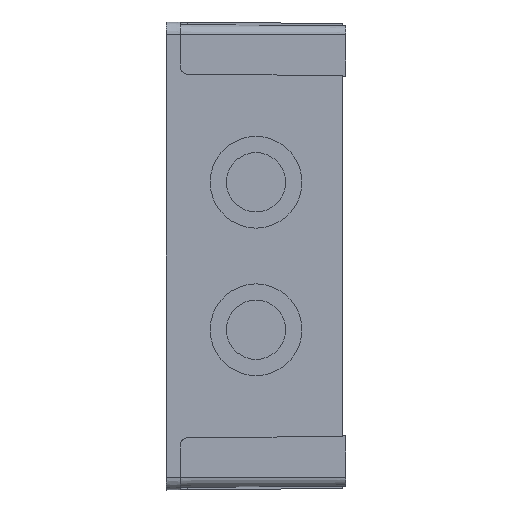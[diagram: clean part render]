
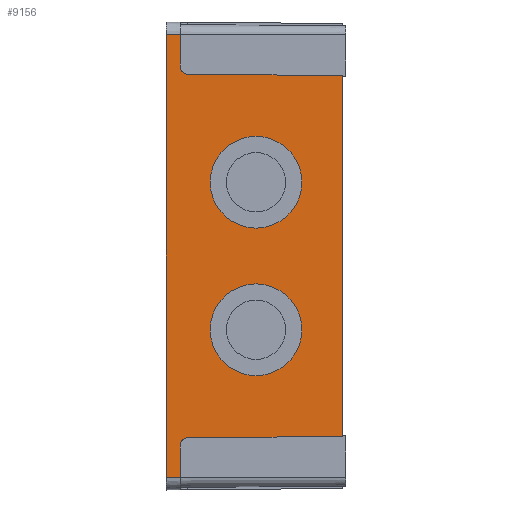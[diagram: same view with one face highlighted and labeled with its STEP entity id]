
A CAD part, left-side view. The second image highlights one B-rep face of the part: STEP entity #9156.
In plain terms, the highlighted planar face has unit normal (-1, -0.009, 0).
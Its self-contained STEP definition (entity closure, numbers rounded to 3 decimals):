
#2607 = VERTEX_POINT ( 'NONE', #6578 ) ;
#2619 = EDGE_CURVE ( 'NONE', #2607, #2620, #6628, .T. ) ;
#2620 = VERTEX_POINT ( 'NONE', #6623 ) ;
#2716 = EDGE_CURVE ( 'NONE', #2728, #2723, #6747, .T. ) ;
#2723 = VERTEX_POINT ( 'NONE', #6795 ) ;
#2728 = VERTEX_POINT ( 'NONE', #6788 ) ;
#6578 = CARTESIAN_POINT ( 'NONE',  ( -64.943, -12.257, 20.5 ) ) ;
#6623 = CARTESIAN_POINT ( 'NONE',  ( -64.721, -37.756, 20.5 ) ) ;
#6624 = DIRECTION ( 'NONE',  ( 0.009, -1., 0. ) ) ;
#6625 = DIRECTION ( 'NONE',  ( -1., -0.009, 0. ) ) ;
#6626 = CARTESIAN_POINT ( 'NONE',  ( -64.832, -25.007, 20.5 ) ) ;
#6627 = AXIS2_PLACEMENT_3D ( 'NONE', #6626, #6625, #6624 ) ;
#6628 = CIRCLE ( 'NONE', #6627, 12.75 ) ;
#6744 = DIRECTION ( 'NONE',  ( 0.009, -1., 0. ) ) ;
#6745 = DIRECTION ( 'NONE',  ( -1., -0.009, 0. ) ) ;
#6746 = AXIS2_PLACEMENT_3D ( 'NONE', #6752, #6745, #6744 ) ;
#6747 = CIRCLE ( 'NONE', #6746, 12.75 ) ;
#6752 = CARTESIAN_POINT ( 'NONE',  ( -64.832, -25.007, -20.5 ) ) ;
#6788 = CARTESIAN_POINT ( 'NONE',  ( -64.943, -12.257, -20.5 ) ) ;
#6795 = CARTESIAN_POINT ( 'NONE',  ( -64.721, -37.756, -20.5 ) ) ;
#7273 = CARTESIAN_POINT ( 'NONE',  ( -64.622, -49., -50.157 ) ) ;
#7274 = DIRECTION ( 'NONE',  ( 0., 0., 1. ) ) ;
#7275 = VECTOR ( 'NONE', #7274, 1000. ) ;
#7276 = CARTESIAN_POINT ( 'NONE',  ( -64.622, -49., -61.55 ) ) ;
#7277 = LINE ( 'NONE', #7276, #7275 ) ;
#7278 = CARTESIAN_POINT ( 'NONE',  ( -64.622, -49., 50.157 ) ) ;
#7301 = CARTESIAN_POINT ( 'NONE',  ( -65.05, 0., 61.55 ) ) ;
#7302 = DIRECTION ( 'NONE',  ( -0.009, 1., 0. ) ) ;
#7303 = VECTOR ( 'NONE', #7302, 1000. ) ;
#7304 = CARTESIAN_POINT ( 'NONE',  ( -65.05, 0., 61.55 ) ) ;
#7305 = LINE ( 'NONE', #7304, #7303 ) ;
#7380 = CARTESIAN_POINT ( 'NONE',  ( -65.015, -4., 61.55 ) ) ;
#7427 = CARTESIAN_POINT ( 'NONE',  ( -65.05, 0., -61.55 ) ) ;
#7428 = DIRECTION ( 'NONE',  ( -0.009, 1., 0. ) ) ;
#7429 = VECTOR ( 'NONE', #7428, 1000. ) ;
#7430 = CARTESIAN_POINT ( 'NONE',  ( -65.05, 0., -61.55 ) ) ;
#7431 = LINE ( 'NONE', #7430, #7429 ) ;
#7432 = CARTESIAN_POINT ( 'NONE',  ( -65.015, -4., -61.55 ) ) ;
#7606 =( BOUNDED_CURVE ( )  B_SPLINE_CURVE ( 3, ( #7660, #7659, #7658, #7657 ),
 .UNSPECIFIED., .F., .T. ) 
 B_SPLINE_CURVE_WITH_KNOTS ( ( 4, 4 ),
 ( 4.721, 6.283 ),
 .UNSPECIFIED. ) 
 CURVE ( )  GEOMETRIC_REPRESENTATION_ITEM ( )  RATIONAL_B_SPLINE_CURVE ( ( 1., 0.807, 0.807, 1. ) ) 
 REPRESENTATION_ITEM ( '' )  );
#7607 = LINE ( 'NONE', #7656, #7655 ) ;
#7608 = CARTESIAN_POINT ( 'NONE',  ( -65.015, -4., 52.533 ) ) ;
#7609 = CARTESIAN_POINT ( 'NONE',  ( -64.998, -5.983, 50.533 ) ) ;
#7633 = DIRECTION ( 'NONE',  ( 0.009, -1., 0. ) ) ;
#7634 = DIRECTION ( 'NONE',  ( -1., -0.009, 0. ) ) ;
#7635 = CARTESIAN_POINT ( 'NONE',  ( -65.05, 0., -61.55 ) ) ;
#7636 = AXIS2_PLACEMENT_3D ( 'NONE', #7635, #7634, #7633 ) ;
#7637 = PLANE ( 'NONE',  #7636 ) ;
#7638 = FACE_OUTER_BOUND ( 'NONE', #9165, .T. ) ;
#7639 = FACE_BOUND ( 'NONE', #9161, .T. ) ;
#7640 = FACE_BOUND ( 'NONE', #9157, .T. ) ;
#7645 = CARTESIAN_POINT ( 'NONE',  ( -65.015, -4., -52.533 ) ) ;
#7646 = DIRECTION ( 'NONE',  ( 0., 0., 1. ) ) ;
#7647 = VECTOR ( 'NONE', #7646, 1000. ) ;
#7648 = CARTESIAN_POINT ( 'NONE',  ( -65.015, -4., -61.55 ) ) ;
#7649 = LINE ( 'NONE', #7648, #7647 ) ;
#7650 = DIRECTION ( 'NONE',  ( 0., 0., 1. ) ) ;
#7651 = VECTOR ( 'NONE', #7650, 1000. ) ;
#7652 = CARTESIAN_POINT ( 'NONE',  ( -65.05, 0., -61.55 ) ) ;
#7653 = LINE ( 'NONE', #7652, #7651 ) ;
#7654 = DIRECTION ( 'NONE',  ( 0., 0., 1. ) ) ;
#7655 = VECTOR ( 'NONE', #7654, 1000. ) ;
#7656 = CARTESIAN_POINT ( 'NONE',  ( -65.015, -4., -61.55 ) ) ;
#7657 = CARTESIAN_POINT ( 'NONE',  ( -65.015, -4., 52.533 ) ) ;
#7658 = CARTESIAN_POINT ( 'NONE',  ( -65.015, -4., 51.369 ) ) ;
#7659 = CARTESIAN_POINT ( 'NONE',  ( -65.008, -4.819, 50.543 ) ) ;
#7660 = CARTESIAN_POINT ( 'NONE',  ( -64.998, -5.983, 50.533 ) ) ;
#7675 = DIRECTION ( 'NONE',  ( 0.009, -1., -0.009 ) ) ;
#7676 = VECTOR ( 'NONE', #7675, 1000. ) ;
#7677 = CARTESIAN_POINT ( 'NONE',  ( -65.041, -0.978, 50.576 ) ) ;
#7678 = LINE ( 'NONE', #7677, #7676 ) ;
#7679 = DIRECTION ( 'NONE',  ( 0.009, -1., 0. ) ) ;
#7680 = DIRECTION ( 'NONE',  ( -1., -0.009, 0. ) ) ;
#7681 = CARTESIAN_POINT ( 'NONE',  ( -64.832, -25.007, -20.5 ) ) ;
#7682 = AXIS2_PLACEMENT_3D ( 'NONE', #7681, #7680, #7679 ) ;
#7683 = CIRCLE ( 'NONE', #7682, 12.75 ) ;
#7684 = DIRECTION ( 'NONE',  ( 0.009, -1., 0. ) ) ;
#7685 = DIRECTION ( 'NONE',  ( -1., -0.009, 0. ) ) ;
#7686 = CARTESIAN_POINT ( 'NONE',  ( -64.832, -25.007, 20.5 ) ) ;
#7687 = AXIS2_PLACEMENT_3D ( 'NONE', #7686, #7685, #7684 ) ;
#7688 = CIRCLE ( 'NONE', #7687, 12.75 ) ;
#7762 = DIRECTION ( 'NONE',  ( -0.009, 1., -0.009 ) ) ;
#7763 = VECTOR ( 'NONE', #7762, 1000. ) ;
#7764 = CARTESIAN_POINT ( 'NONE',  ( -65.051, 0.096, -50.586 ) ) ;
#7765 = CARTESIAN_POINT ( 'NONE',  ( -64.998, -5.983, -50.533 ) ) ;
#7766 = CARTESIAN_POINT ( 'NONE',  ( -65.008, -4.819, -50.543 ) ) ;
#7767 = CARTESIAN_POINT ( 'NONE',  ( -65.015, -4., -51.369 ) ) ;
#7768 = CARTESIAN_POINT ( 'NONE',  ( -65.015, -4., -52.533 ) ) ;
#7769 =( BOUNDED_CURVE ( )  B_SPLINE_CURVE ( 3, ( #7768, #7767, #7766, #7765 ),
 .UNSPECIFIED., .F., .T. ) 
 B_SPLINE_CURVE_WITH_KNOTS ( ( 4, 4 ),
 ( 3.142, 4.704 ),
 .UNSPECIFIED. ) 
 CURVE ( )  GEOMETRIC_REPRESENTATION_ITEM ( )  RATIONAL_B_SPLINE_CURVE ( ( 1., 0.807, 0.807, 1. ) ) 
 REPRESENTATION_ITEM ( '' )  );
#7770 = LINE ( 'NONE', #7764, #7763 ) ;
#7771 = CARTESIAN_POINT ( 'NONE',  ( -64.998, -5.983, -50.533 ) ) ;
#8917 = VERTEX_POINT ( 'NONE', #7278 ) ;
#8919 = EDGE_CURVE ( 'NONE', #8920, #8917, #7277, .T. ) ;
#8920 = VERTEX_POINT ( 'NONE', #7273 ) ;
#8944 = EDGE_CURVE ( 'NONE', #8971, #8945, #7305, .T. ) ;
#8945 = VERTEX_POINT ( 'NONE', #7301 ) ;
#8971 = VERTEX_POINT ( 'NONE', #7380 ) ;
#9013 = VERTEX_POINT ( 'NONE', #7432 ) ;
#9015 = EDGE_CURVE ( 'NONE', #9013, #9016, #7431, .T. ) ;
#9016 = VERTEX_POINT ( 'NONE', #7427 ) ;
#9141 = VERTEX_POINT ( 'NONE', #7609 ) ;
#9142 = ORIENTED_EDGE ( 'NONE', *, *, #9143, .T. ) ;
#9143 = EDGE_CURVE ( 'NONE', #9141, #9144, #7606, .T. ) ;
#9144 = VERTEX_POINT ( 'NONE', #7608 ) ;
#9145 = ORIENTED_EDGE ( 'NONE', *, *, #9146, .T. ) ;
#9146 = EDGE_CURVE ( 'NONE', #9144, #8971, #7607, .T. ) ;
#9147 = ORIENTED_EDGE ( 'NONE', *, *, #8944, .T. ) ;
#9148 = ORIENTED_EDGE ( 'NONE', *, *, #9149, .F. ) ;
#9149 = EDGE_CURVE ( 'NONE', #9016, #8945, #7653, .T. ) ;
#9150 = ORIENTED_EDGE ( 'NONE', *, *, #9015, .F. ) ;
#9151 = ORIENTED_EDGE ( 'NONE', *, *, #9152, .T. ) ;
#9152 = EDGE_CURVE ( 'NONE', #9013, #9153, #7649, .T. ) ;
#9153 = VERTEX_POINT ( 'NONE', #7645 ) ;
#9156 = ADVANCED_FACE ( 'NONE', ( #7640, #7639, #7638 ), #7637, .T. ) ;
#9157 = EDGE_LOOP ( 'NONE', ( #9158, #9160 ) ) ;
#9158 = ORIENTED_EDGE ( 'NONE', *, *, #9159, .F. ) ;
#9159 = EDGE_CURVE ( 'NONE', #2620, #2607, #7688, .T. ) ;
#9160 = ORIENTED_EDGE ( 'NONE', *, *, #2619, .F. ) ;
#9161 = EDGE_LOOP ( 'NONE', ( #9162, #9164 ) ) ;
#9162 = ORIENTED_EDGE ( 'NONE', *, *, #9163, .F. ) ;
#9163 = EDGE_CURVE ( 'NONE', #2723, #2728, #7683, .T. ) ;
#9164 = ORIENTED_EDGE ( 'NONE', *, *, #2716, .F. ) ;
#9165 = EDGE_LOOP ( 'NONE', ( #9166, #9142, #9145, #9147, #9148, #9150, #9151, #9216, #9219, #9221 ) ) ;
#9166 = ORIENTED_EDGE ( 'NONE', *, *, #9167, .F. ) ;
#9167 = EDGE_CURVE ( 'NONE', #9141, #8917, #7678, .T. ) ;
#9216 = ORIENTED_EDGE ( 'NONE', *, *, #9217, .T. ) ;
#9217 = EDGE_CURVE ( 'NONE', #9153, #9218, #7769, .T. ) ;
#9218 = VERTEX_POINT ( 'NONE', #7771 ) ;
#9219 = ORIENTED_EDGE ( 'NONE', *, *, #9220, .F. ) ;
#9220 = EDGE_CURVE ( 'NONE', #8920, #9218, #7770, .T. ) ;
#9221 = ORIENTED_EDGE ( 'NONE', *, *, #8919, .T. ) ;
